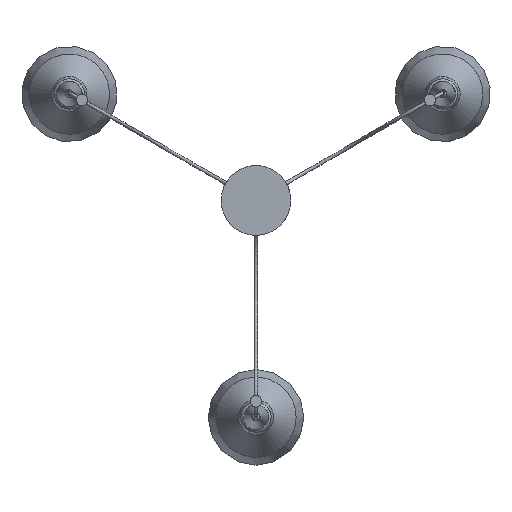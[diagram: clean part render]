
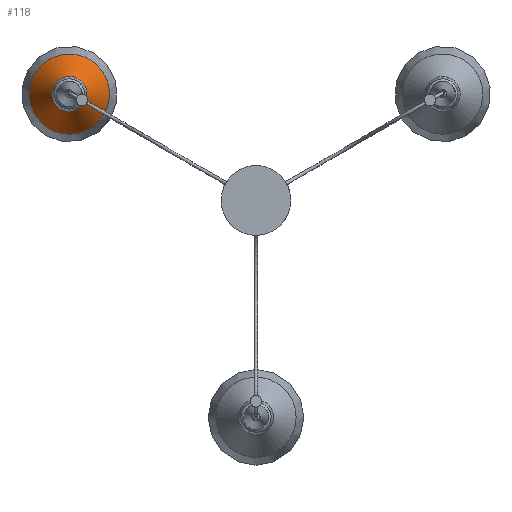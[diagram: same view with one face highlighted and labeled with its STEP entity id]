
A CAD part, top view. The second image highlights one B-rep face of the part: STEP entity #118.
In plain terms, the highlighted free-form (B-spline) face has degree [2, 1] with [9, 2] control points.
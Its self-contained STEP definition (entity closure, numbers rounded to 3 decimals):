
#118=ADVANCED_FACE('',(#221),#1260,.T.);
#221=FACE_OUTER_BOUND('',#324,.T.);
#324=EDGE_LOOP('',(#455,#456,#457,#458));
#455=ORIENTED_EDGE('',*,*,#779,.F.);
#456=ORIENTED_EDGE('',*,*,#780,.T.);
#457=ORIENTED_EDGE('',*,*,#779,.T.);
#458=ORIENTED_EDGE('',*,*,#781,.F.);
#779=EDGE_CURVE('',#1140,#1139,#1085,.T.);
#780=EDGE_CURVE('',#1140,#1140,#952,.T.);
#781=EDGE_CURVE('',#1139,#1139,#953,.T.);
#952=(
BOUNDED_CURVE()
B_SPLINE_CURVE(2,(#2044,#2045,#2046,#2047,#2048,#2049,#2050,#2051,#2052),
 .UNSPECIFIED.,.T.,.F.)
B_SPLINE_CURVE_WITH_KNOTS((3,2,2,2,3),(0.,129.58,259.16,
388.739,518.319),.UNSPECIFIED.)
CURVE()
GEOMETRIC_REPRESENTATION_ITEM()
RATIONAL_B_SPLINE_CURVE((1.,0.707,1.,0.707,1.,0.707,
1.,0.707,1.))
REPRESENTATION_ITEM('')
);
#953=(
BOUNDED_CURVE()
B_SPLINE_CURVE(2,(#2053,#2054,#2055,#2056,#2057,#2058,#2059,#2060,#2061),
 .UNSPECIFIED.,.T.,.F.)
B_SPLINE_CURVE_WITH_KNOTS((3,2,2,2,3),(0.,129.58,259.16,
388.739,518.319),.UNSPECIFIED.)
CURVE()
GEOMETRIC_REPRESENTATION_ITEM()
RATIONAL_B_SPLINE_CURVE((1.,0.707,1.,0.707,1.,0.707,
1.,0.707,1.))
REPRESENTATION_ITEM('')
);
#1085=B_SPLINE_CURVE_WITH_KNOTS('',1,(#2042,#2043),.UNSPECIFIED.,.F.,.F.,
(2,2),(0.,79.854),.UNSPECIFIED.);
#1139=VERTEX_POINT('',#2026);
#1140=VERTEX_POINT('',#2027);
#1260=(
BOUNDED_SURFACE()
B_SPLINE_SURFACE(2,1,((#1941,#1942),(#1943,#1944),(#1945,#1946),(#1947,
#1948),(#1949,#1950),(#1951,#1952),(#1953,#1954),(#1955,#1956),(#1957,#1958)),
 .UNSPECIFIED.,.T.,.F.,.F.)
B_SPLINE_SURFACE_WITH_KNOTS((3,2,2,2,3),(2,2),(0.,129.58,259.16,
388.739,518.319),(0.,79.854),.UNSPECIFIED.)
GEOMETRIC_REPRESENTATION_ITEM()
RATIONAL_B_SPLINE_SURFACE(((1.,1.),(0.707,0.707),
(1.,1.),(0.707,0.707),(1.,1.),(0.707,
0.707),(1.,1.),(0.707,0.707),(1.,1.)))
REPRESENTATION_ITEM('')
SURFACE()
);
#1941=CARTESIAN_POINT('',(143.207,-491.391,-188.215));
#1942=CARTESIAN_POINT('',(109.67,-472.028,-118.379));
#1943=CARTESIAN_POINT('',(177.682,-431.678,-188.215));
#1944=CARTESIAN_POINT('',(124.782,-445.853,-118.379));
#1945=CARTESIAN_POINT('',(117.969,-397.203,-188.215));
#1946=CARTESIAN_POINT('',(98.607,-430.74,-118.379));
#1947=CARTESIAN_POINT('',(58.256,-362.728,-188.215));
#1948=CARTESIAN_POINT('',(72.431,-415.628,-118.379));
#1949=CARTESIAN_POINT('',(23.781,-422.441,-188.215));
#1950=CARTESIAN_POINT('',(57.318,-441.803,-118.379));
#1951=CARTESIAN_POINT('',(-10.694,-482.153,-188.215));
#1952=CARTESIAN_POINT('',(42.206,-467.979,-118.379));
#1953=CARTESIAN_POINT('',(49.019,-516.629,-188.215));
#1954=CARTESIAN_POINT('',(68.381,-483.092,-118.379));
#1955=CARTESIAN_POINT('',(108.732,-551.104,-188.215));
#1956=CARTESIAN_POINT('',(94.557,-498.204,-118.379));
#1957=CARTESIAN_POINT('',(143.207,-491.391,-188.215));
#1958=CARTESIAN_POINT('',(109.67,-472.028,-118.379));
#2026=CARTESIAN_POINT('',(109.67,-472.028,-118.379));
#2027=CARTESIAN_POINT('',(143.207,-491.391,-188.215));
#2042=CARTESIAN_POINT('',(143.207,-491.391,-188.215));
#2043=CARTESIAN_POINT('',(109.67,-472.028,-118.379));
#2044=CARTESIAN_POINT('',(143.207,-491.391,-188.215));
#2045=CARTESIAN_POINT('',(177.682,-431.678,-188.215));
#2046=CARTESIAN_POINT('',(117.969,-397.203,-188.215));
#2047=CARTESIAN_POINT('',(58.256,-362.728,-188.215));
#2048=CARTESIAN_POINT('',(23.781,-422.441,-188.215));
#2049=CARTESIAN_POINT('',(-10.694,-482.153,-188.215));
#2050=CARTESIAN_POINT('',(49.019,-516.629,-188.215));
#2051=CARTESIAN_POINT('',(108.732,-551.104,-188.215));
#2052=CARTESIAN_POINT('',(143.207,-491.391,-188.215));
#2053=CARTESIAN_POINT('',(109.67,-472.028,-118.379));
#2054=CARTESIAN_POINT('',(124.782,-445.853,-118.379));
#2055=CARTESIAN_POINT('',(98.607,-430.74,-118.379));
#2056=CARTESIAN_POINT('',(72.431,-415.628,-118.379));
#2057=CARTESIAN_POINT('',(57.318,-441.803,-118.379));
#2058=CARTESIAN_POINT('',(42.206,-467.979,-118.379));
#2059=CARTESIAN_POINT('',(68.381,-483.092,-118.379));
#2060=CARTESIAN_POINT('',(94.557,-498.204,-118.379));
#2061=CARTESIAN_POINT('',(109.67,-472.028,-118.379));
